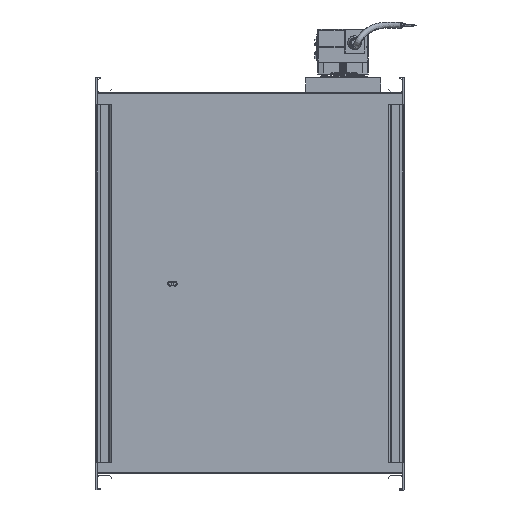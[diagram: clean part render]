
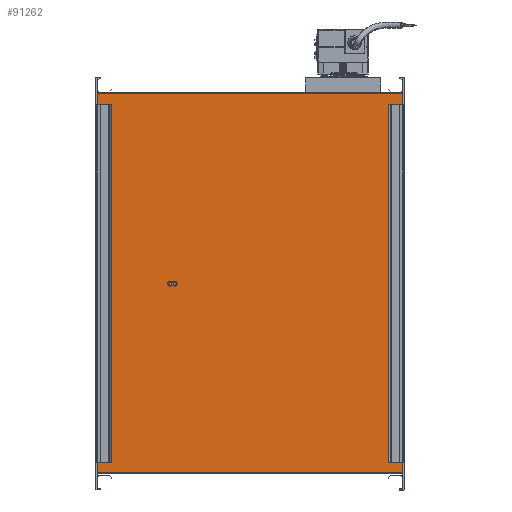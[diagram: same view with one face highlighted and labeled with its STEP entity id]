
A CAD part, front view. The second image highlights one B-rep face of the part: STEP entity #91262.
In plain terms, the highlighted planar face has unit normal (0, -1, 0).
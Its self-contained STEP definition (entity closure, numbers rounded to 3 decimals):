
#912 = VERTEX_POINT ( 'NONE', #90740 ) ;
#1205 = LINE ( 'NONE', #59564, #33887 ) ;
#2481 = EDGE_LOOP ( 'NONE', ( #26935, #27027, #38218, #21346 ) ) ;
#9408 = LINE ( 'NONE', #64574, #85101 ) ;
#12077 = VERTEX_POINT ( 'NONE', #19754 ) ;
#13418 = DIRECTION ( 'NONE',  ( 0., 0., -1. ) ) ;
#14852 = LINE ( 'NONE', #52154, #62493 ) ;
#15768 = PLANE ( 'NONE',  #43347 ) ;
#19754 = CARTESIAN_POINT ( 'NONE',  ( -244.423, -235.848, 852. ) ) ;
#21346 = ORIENTED_EDGE ( 'NONE', *, *, #25654, .T. ) ;
#25654 = EDGE_CURVE ( 'NONE', #12077, #93107, #62013, .T. ) ;
#26935 = ORIENTED_EDGE ( 'NONE', *, *, #50563, .F. ) ;
#27027 = ORIENTED_EDGE ( 'NONE', *, *, #72908, .F. ) ;
#30097 = FACE_OUTER_BOUND ( 'NONE', #2481, .T. ) ;
#33887 = VECTOR ( 'NONE', #80124, 1000. ) ;
#35827 = DIRECTION ( 'NONE',  ( 0., -1., 0. ) ) ;
#38218 = ORIENTED_EDGE ( 'NONE', *, *, #87362, .T. ) ;
#43347 = AXIS2_PLACEMENT_3D ( 'NONE', #44420, #35827, #52131 ) ;
#43958 = VERTEX_POINT ( 'NONE', #68751 ) ;
#44420 = CARTESIAN_POINT ( 'NONE',  ( -244.423, -235.848, 852. ) ) ;
#45892 = VECTOR ( 'NONE', #62960, 1000. ) ;
#50563 = EDGE_CURVE ( 'NONE', #43958, #93107, #9408, .T. ) ;
#52131 = DIRECTION ( 'NONE',  ( 0., 0., -1. ) ) ;
#52154 = CARTESIAN_POINT ( 'NONE',  ( -244.423, -235.848, 852. ) ) ;
#57216 = CARTESIAN_POINT ( 'NONE',  ( -244.423, -235.848, 852. ) ) ;
#59564 = CARTESIAN_POINT ( 'NONE',  ( -244.423, -235.848, 1348. ) ) ;
#62013 = LINE ( 'NONE', #57216, #45892 ) ;
#62493 = VECTOR ( 'NONE', #65531, 1000. ) ;
#62960 = DIRECTION ( 'NONE',  ( 1., 0., 0. ) ) ;
#64574 = CARTESIAN_POINT ( 'NONE',  ( 155.577, -235.848, 852. ) ) ;
#65531 = DIRECTION ( 'NONE',  ( 0., 0., -1. ) ) ;
#65881 = CARTESIAN_POINT ( 'NONE',  ( 155.577, -235.848, 852. ) ) ;
#68751 = CARTESIAN_POINT ( 'NONE',  ( 155.577, -235.848, 1348. ) ) ;
#72908 = EDGE_CURVE ( 'NONE', #912, #43958, #1205, .T. ) ;
#80124 = DIRECTION ( 'NONE',  ( 1., 0., 0. ) ) ;
#85101 = VECTOR ( 'NONE', #13418, 1000. ) ;
#87362 = EDGE_CURVE ( 'NONE', #912, #12077, #14852, .T. ) ;
#90740 = CARTESIAN_POINT ( 'NONE',  ( -244.423, -235.848, 1348. ) ) ;
#91262 = ADVANCED_FACE ( 'NONE', ( #30097 ), #15768, .T. ) ;
#93107 = VERTEX_POINT ( 'NONE', #65881 ) ;
